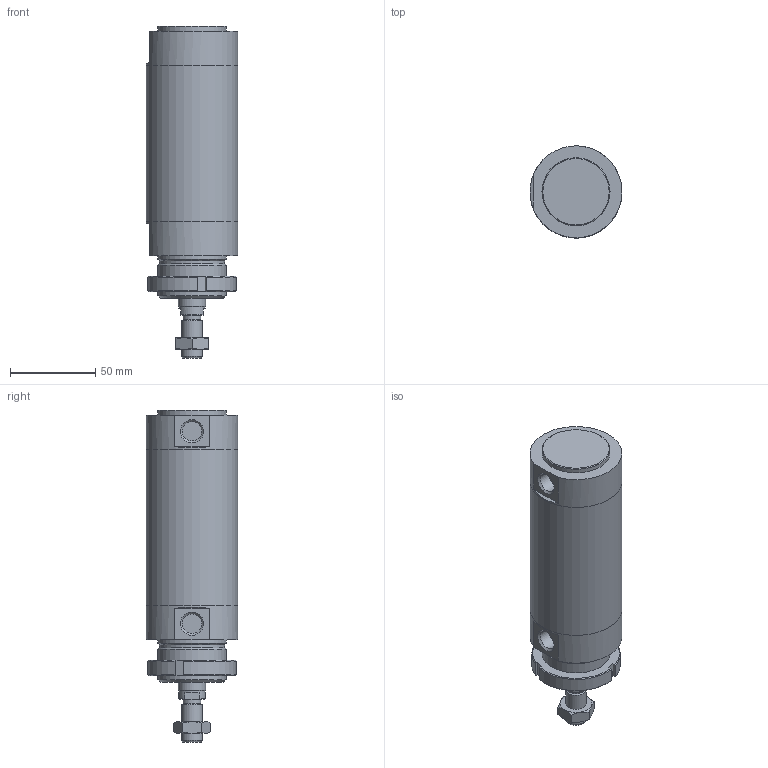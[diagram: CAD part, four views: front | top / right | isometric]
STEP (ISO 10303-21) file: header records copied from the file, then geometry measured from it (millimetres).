
FILE_DESCRIPTION(/* description */ (''),/* implementation_level */ '2;1');
FILE_NAME(/* name */ 'I:\Area Tecnica\Documenti\A-Manieri\_Inventor\12X\12X#D_###_####_#_#\12XAD_050_0050_#_#.stp',/* time_stamp */ '2015-04-29T16:44:01+02:00',/* author */ ('maniean1'),/* organization */ ('Pneumax S.p.A.'),/* preprocessor_version */ 'ST-DEVELOPER v15.2',/* originating_system */ 'Autodesk Inventor 2014',/* authorisation */ '');
FILE_SCHEMA (('AUTOMOTIVE_DESIGN { 1 0 10303 214 3 1 1 }'));
Length unit declared in the file: millimetre
Products named in the file (7): C1250_619-0050; 12X50_604; S12X50_0050; 12X_50_11; 12X50_611; G12X_050_05; 12XAD_050_0050_#_#
Bounding box: 54 x 54 x 195 mm (x, y, z)
Volume: 261858.8 mm3; surface area: 74381.3 mm2
Topology: 6 solids, 6 shells, 81 faces, 175 edges, 112 vertices
Faces by surface type: plane 41, cylinder 21, cone 19
Full cylindrical faces by diameter (mm): 10.2 x1, 11.4 x2, 12 x2, 14 x1, 15.6 x1, 16 x1, 38.2 x1, 40 x4, 50 x2, 54 x3
Entity records: 2155 total; most frequent: CARTESIAN_POINT 400, DIRECTION 364, ORIENTED_EDGE 284, AXIS2_PLACEMENT_3D 156, EDGE_CURVE 142, EDGE_LOOP 124, VERTEX_POINT 108, ADVANCED_FACE 81
